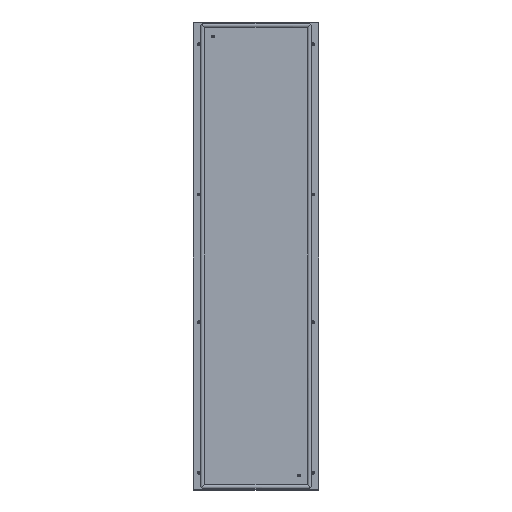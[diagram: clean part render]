
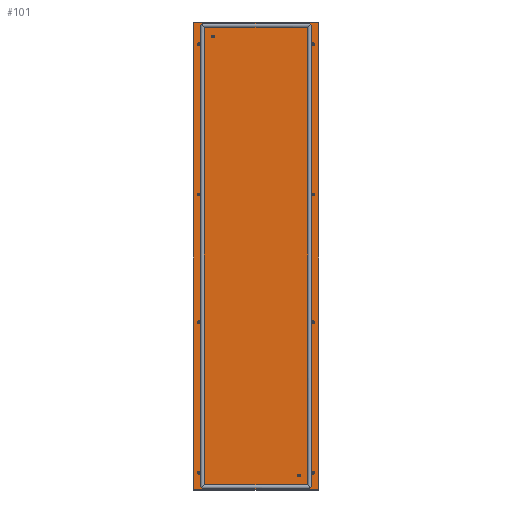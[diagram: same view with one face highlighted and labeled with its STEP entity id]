
A CAD part, top view. The second image highlights one B-rep face of the part: STEP entity #101.
In plain terms, the highlighted planar face has unit normal (0, 0, 1).
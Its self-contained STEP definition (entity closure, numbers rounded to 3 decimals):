
#101=ADVANCED_FACE('',(#386,#388,#390,#392,#394,#396,#398,#400,#402,#404,#406),#408,
.T.);
#386=FACE_BOUND('',#387,.T.);
#387=EDGE_LOOP('',(#1653,#1654,#1655,#1656));
#388=FACE_BOUND('',#389,.T.);
#389=EDGE_LOOP('',(#1657));
#390=FACE_BOUND('',#391,.T.);
#391=EDGE_LOOP('',(#1658));
#392=FACE_BOUND('',#393,.T.);
#393=EDGE_LOOP('',(#1659));
#394=FACE_BOUND('',#395,.T.);
#395=EDGE_LOOP('',(#1660));
#396=FACE_BOUND('',#397,.T.);
#397=EDGE_LOOP('',(#1661));
#398=FACE_BOUND('',#399,.T.);
#399=EDGE_LOOP('',(#1662));
#400=FACE_BOUND('',#401,.T.);
#401=EDGE_LOOP('',(#1663));
#402=FACE_BOUND('',#403,.T.);
#403=EDGE_LOOP('',(#1664));
#404=FACE_BOUND('',#405,.T.);
#405=EDGE_LOOP('',(#1665));
#406=FACE_BOUND('',#407,.T.);
#407=EDGE_LOOP('',(#1666));
#408=PLANE('',#409);
#409=AXIS2_PLACEMENT_3D('',#410,#411,#412);
#410=CARTESIAN_POINT('',(0.,0.,1.4));
#411=DIRECTION('',(0.,0.,1.));
#412=DIRECTION('',(1.,0.,0.));
#1653=ORIENTED_EDGE('',*,*,#2181,.F.);
#1654=ORIENTED_EDGE('',*,*,#2182,.F.);
#1655=ORIENTED_EDGE('',*,*,#2183,.F.);
#1656=ORIENTED_EDGE('',*,*,#2184,.F.);
#1657=ORIENTED_EDGE('',*,*,#2145,.F.);
#1658=ORIENTED_EDGE('',*,*,#2147,.F.);
#1659=ORIENTED_EDGE('',*,*,#2161,.F.);
#1660=ORIENTED_EDGE('',*,*,#2151,.F.);
#1661=ORIENTED_EDGE('',*,*,#2155,.F.);
#1662=ORIENTED_EDGE('',*,*,#2153,.F.);
#1663=ORIENTED_EDGE('',*,*,#2163,.F.);
#1664=ORIENTED_EDGE('',*,*,#2159,.F.);
#1665=ORIENTED_EDGE('',*,*,#2149,.F.);
#1666=ORIENTED_EDGE('',*,*,#2157,.F.);
#2145=EDGE_CURVE('',#2409,#2409,#2410,.T.);
#2147=EDGE_CURVE('',#2413,#2413,#2414,.T.);
#2149=EDGE_CURVE('',#2417,#2417,#2418,.T.);
#2151=EDGE_CURVE('',#2421,#2421,#2422,.T.);
#2153=EDGE_CURVE('',#2425,#2425,#2426,.T.);
#2155=EDGE_CURVE('',#2429,#2429,#2430,.T.);
#2157=EDGE_CURVE('',#2433,#2433,#2434,.T.);
#2159=EDGE_CURVE('',#2437,#2437,#2438,.T.);
#2161=EDGE_CURVE('',#2441,#2441,#2442,.T.);
#2163=EDGE_CURVE('',#2445,#2445,#2446,.T.);
#2181=EDGE_CURVE('',#2481,#2482,#2483,.T.);
#2182=EDGE_CURVE('',#2484,#2481,#2485,.T.);
#2183=EDGE_CURVE('',#2486,#2484,#2487,.T.);
#2184=EDGE_CURVE('',#2482,#2486,#2488,.T.);
#2409=VERTEX_POINT('',#2845);
#2410=CIRCLE('',#2846,0.5);
#2413=VERTEX_POINT('',#2855);
#2414=CIRCLE('',#2856,0.5);
#2417=VERTEX_POINT('',#2865);
#2418=CIRCLE('',#2866,6.75);
#2421=VERTEX_POINT('',#2875);
#2422=CIRCLE('',#2876,6.75);
#2425=VERTEX_POINT('',#2885);
#2426=CIRCLE('',#2886,6.75);
#2429=VERTEX_POINT('',#2895);
#2430=CIRCLE('',#2896,6.75);
#2433=VERTEX_POINT('',#2905);
#2434=CIRCLE('',#2906,6.75);
#2437=VERTEX_POINT('',#2915);
#2438=CIRCLE('',#2916,6.75);
#2441=VERTEX_POINT('',#2925);
#2442=CIRCLE('',#2926,6.75);
#2445=VERTEX_POINT('',#2935);
#2446=CIRCLE('',#2936,6.75);
#2481=VERTEX_POINT('',#3025);
#2482=VERTEX_POINT('',#3026);
#2483=LINE('',#3027,#3028);
#2484=VERTEX_POINT('',#3030);
#2485=LINE('',#3031,#3032);
#2486=VERTEX_POINT('',#3034);
#2487=LINE('',#3035,#3036);
#2488=LINE('',#3038,#3039);
#2845=CARTESIAN_POINT('',(200.5,-1025.,1.4));
#2846=AXIS2_PLACEMENT_3D('',#2847,#2848,#2849);
#2847=CARTESIAN_POINT('',(200.,-1025.,1.4));
#2848=DIRECTION('',(0.,0.,1.));
#2849=DIRECTION('',(-1.,0.,0.));
#2855=CARTESIAN_POINT('',(-199.5,1025.,1.4));
#2856=AXIS2_PLACEMENT_3D('',#2857,#2858,#2859);
#2857=CARTESIAN_POINT('',(-200.,1025.,1.4));
#2858=DIRECTION('',(0.,0.,1.));
#2859=DIRECTION('',(-1.,0.,0.));
#2865=CARTESIAN_POINT('',(273.75,989.25,1.4));
#2866=AXIS2_PLACEMENT_3D('',#2867,#2868,#2869);
#2867=CARTESIAN_POINT('',(267.,989.25,1.4));
#2868=DIRECTION('',(0.,0.,1.));
#2869=DIRECTION('',(-1.,0.,0.));
#2875=CARTESIAN_POINT('',(-260.25,-309.75,1.4));
#2876=AXIS2_PLACEMENT_3D('',#2877,#2878,#2879);
#2877=CARTESIAN_POINT('',(-267.,-309.75,1.4));
#2878=DIRECTION('',(0.,0.,1.));
#2879=DIRECTION('',(-1.,0.,0.));
#2885=CARTESIAN_POINT('',(273.75,-1011.75,1.4));
#2886=AXIS2_PLACEMENT_3D('',#2887,#2888,#2889);
#2887=CARTESIAN_POINT('',(267.,-1011.75,1.4));
#2888=DIRECTION('',(0.,0.,1.));
#2889=DIRECTION('',(-1.,0.,0.));
#2895=CARTESIAN_POINT('',(-260.25,-1011.75,1.4));
#2896=AXIS2_PLACEMENT_3D('',#2897,#2898,#2899);
#2897=CARTESIAN_POINT('',(-267.,-1011.75,1.4));
#2898=DIRECTION('',(0.,0.,1.));
#2899=DIRECTION('',(-1.,0.,0.));
#2905=CARTESIAN_POINT('',(-260.25,989.25,1.4));
#2906=AXIS2_PLACEMENT_3D('',#2907,#2908,#2909);
#2907=CARTESIAN_POINT('',(-267.,989.25,1.4));
#2908=DIRECTION('',(0.,0.,1.));
#2909=DIRECTION('',(-1.,0.,0.));
#2915=CARTESIAN_POINT('',(273.75,287.25,1.4));
#2916=AXIS2_PLACEMENT_3D('',#2917,#2918,#2919);
#2917=CARTESIAN_POINT('',(267.,287.25,1.4));
#2918=DIRECTION('',(0.,0.,1.));
#2919=DIRECTION('',(-1.,0.,0.));
#2925=CARTESIAN_POINT('',(-260.25,287.25,1.4));
#2926=AXIS2_PLACEMENT_3D('',#2927,#2928,#2929);
#2927=CARTESIAN_POINT('',(-267.,287.25,1.4));
#2928=DIRECTION('',(0.,0.,1.));
#2929=DIRECTION('',(-1.,0.,0.));
#2935=CARTESIAN_POINT('',(273.75,-309.75,1.4));
#2936=AXIS2_PLACEMENT_3D('',#2937,#2938,#2939);
#2937=CARTESIAN_POINT('',(267.,-309.75,1.4));
#2938=DIRECTION('',(0.,0.,1.));
#2939=DIRECTION('',(-1.,0.,0.));
#3025=CARTESIAN_POINT('',(289.8,1089.8,1.4));
#3026=CARTESIAN_POINT('',(289.8,-1089.8,1.4));
#3027=CARTESIAN_POINT('',(289.8,1089.8,1.4));
#3028=VECTOR('',#3029,1.);
#3029=DIRECTION('',(0.,-1.,0.));
#3030=CARTESIAN_POINT('',(-289.8,1089.8,1.4));
#3031=CARTESIAN_POINT('',(-289.8,1089.8,1.4));
#3032=VECTOR('',#3033,1.);
#3033=DIRECTION('',(1.,0.,0.));
#3034=CARTESIAN_POINT('',(-289.8,-1089.8,1.4));
#3035=CARTESIAN_POINT('',(-289.8,-1089.8,1.4));
#3036=VECTOR('',#3037,1.);
#3037=DIRECTION('',(0.,1.,0.));
#3038=CARTESIAN_POINT('',(289.8,-1089.8,1.4));
#3039=VECTOR('',#3040,1.);
#3040=DIRECTION('',(-1.,0.,0.));
